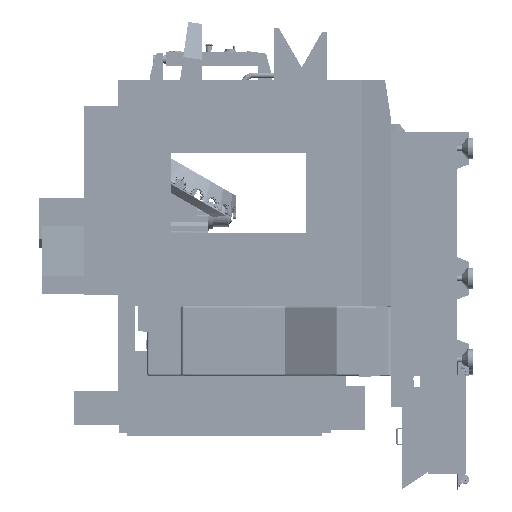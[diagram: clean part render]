
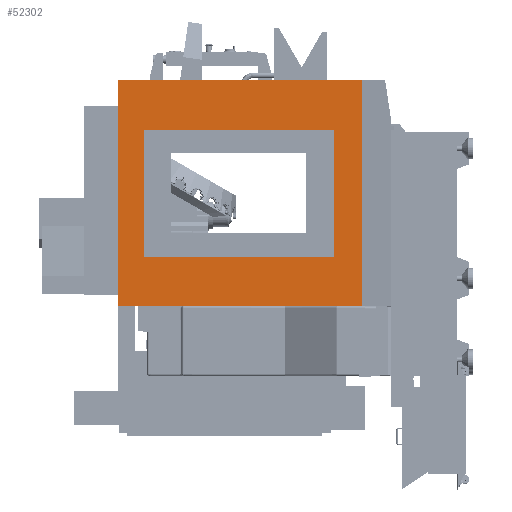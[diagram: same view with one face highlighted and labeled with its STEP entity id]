
A CAD part, left-side view. The second image highlights one B-rep face of the part: STEP entity #52302.
In plain terms, the highlighted planar face has unit normal (-1, 0, 0).
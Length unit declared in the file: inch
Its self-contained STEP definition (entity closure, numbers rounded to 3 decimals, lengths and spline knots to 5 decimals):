
#3774 = LINE ( 'NONE', #417294, #59564 ) ;
#4058 = CARTESIAN_POINT ( 'NONE',  ( -32.48031, 21.06299, 55.70472 ) ) ;
#6069 = LINE ( 'NONE', #510314, #513732 ) ;
#7637 = VERTEX_POINT ( 'NONE', #316207 ) ;
#22071 = CARTESIAN_POINT ( 'NONE',  ( -32.48031, 63.97638, 26.96457 ) ) ;
#23728 = FACE_BOUND ( 'NONE', #217670, .T. ) ;
#39242 = VECTOR ( 'NONE', #265768, 39.37008 ) ;
#52302 = ADVANCED_FACE ( 'NONE', ( #142437, #23728 ), #191964, .T. ) ;
#58057 = DIRECTION ( 'NONE',  ( 0., -1., 0. ) ) ;
#59564 = VECTOR ( 'NONE', #166531, 39.37008 ) ;
#66441 = DIRECTION ( 'NONE',  ( 0., 0., -1. ) ) ;
#82492 = DIRECTION ( 'NONE',  ( 0., 1., 0. ) ) ;
#91105 = VECTOR ( 'NONE', #442512, 39.37008 ) ;
#94455 = VECTOR ( 'NONE', #82492, 39.37008 ) ;
#121980 = EDGE_CURVE ( 'NONE', #544416, #7637, #437110, .T. ) ;
#133866 = EDGE_CURVE ( 'NONE', #297587, #310428, #146245, .T. ) ;
#142437 = FACE_OUTER_BOUND ( 'NONE', #416256, .T. ) ;
#144342 = CARTESIAN_POINT ( 'NONE',  ( -32.48031, 21.06299, 26.96457 ) ) ;
#144703 = VERTEX_POINT ( 'NONE', #234651 ) ;
#146245 = LINE ( 'NONE', #22071, #164222 ) ;
#148738 = ORIENTED_EDGE ( 'NONE', *, *, #121980, .F. ) ;
#160101 = CARTESIAN_POINT ( 'NONE',  ( -32.48031, 14.76378, 16.76803 ) ) ;
#164080 = ORIENTED_EDGE ( 'NONE', *, *, #327753, .F. ) ;
#164222 = VECTOR ( 'NONE', #58057, 39.37008 ) ;
#166531 = DIRECTION ( 'NONE',  ( 0., 0., -1. ) ) ;
#168398 = CARTESIAN_POINT ( 'NONE',  ( -32.48031, 63.97638, 55.70472 ) ) ;
#191964 = PLANE ( 'NONE',  #424643 ) ;
#191986 = EDGE_CURVE ( 'NONE', #314636, #7637, #3774, .T. ) ;
#198176 = CARTESIAN_POINT ( 'NONE',  ( -32.48031, 69.88189, 66.92126 ) ) ;
#209747 = LINE ( 'NONE', #168398, #449542 ) ;
#217670 = EDGE_LOOP ( 'NONE', ( #485137, #335045, #403370, #304699 ) ) ;
#224708 = EDGE_CURVE ( 'NONE', #445114, #314636, #6069, .T. ) ;
#234651 = CARTESIAN_POINT ( 'NONE',  ( -32.48031, 63.97638, 55.70472 ) ) ;
#246677 = EDGE_CURVE ( 'NONE', #449594, #144703, #327959, .T. ) ;
#261320 = CARTESIAN_POINT ( 'NONE',  ( -32.48031, 14.76378, 66.92126 ) ) ;
#265768 = DIRECTION ( 'NONE',  ( 0., 0., 1. ) ) ;
#266273 = CARTESIAN_POINT ( 'NONE',  ( -32.48031, 14.76378, 15.74803 ) ) ;
#272016 = CARTESIAN_POINT ( 'NONE',  ( -32.48031, 69.88189, 16.76803 ) ) ;
#274570 = CARTESIAN_POINT ( 'NONE',  ( -32.48031, 69.88189, 15.74803 ) ) ;
#297587 = VERTEX_POINT ( 'NONE', #345004 ) ;
#304699 = ORIENTED_EDGE ( 'NONE', *, *, #529732, .F. ) ;
#310428 = VERTEX_POINT ( 'NONE', #317612 ) ;
#314636 = VERTEX_POINT ( 'NONE', #198176 ) ;
#316207 = CARTESIAN_POINT ( 'NONE',  ( -32.48031, 69.88189, 15.74803 ) ) ;
#317612 = CARTESIAN_POINT ( 'NONE',  ( -32.48031, 21.06299, 26.96457 ) ) ;
#318729 = DIRECTION ( 'NONE',  ( -1., 0., 0. ) ) ;
#327753 = EDGE_CURVE ( 'NONE', #445114, #544416, #413568, .T. ) ;
#327959 = LINE ( 'NONE', #462822, #94455 ) ;
#335045 = ORIENTED_EDGE ( 'NONE', *, *, #439488, .F. ) ;
#345004 = CARTESIAN_POINT ( 'NONE',  ( -32.48031, 63.97638, 26.96457 ) ) ;
#351108 = LINE ( 'NONE', #144342, #39242 ) ;
#385938 = DIRECTION ( 'NONE',  ( 0., 0., -1. ) ) ;
#391466 = VECTOR ( 'NONE', #66441, 39.37008 ) ;
#398527 = ORIENTED_EDGE ( 'NONE', *, *, #191986, .T. ) ;
#403370 = ORIENTED_EDGE ( 'NONE', *, *, #133866, .F. ) ;
#413568 = LINE ( 'NONE', #160101, #391466 ) ;
#416256 = EDGE_LOOP ( 'NONE', ( #398527, #148738, #164080, #532986 ) ) ;
#417294 = CARTESIAN_POINT ( 'NONE',  ( -32.48031, 69.88189, 16.76803 ) ) ;
#424643 = AXIS2_PLACEMENT_3D ( 'NONE', #272016, #318729, #486718 ) ;
#437110 = LINE ( 'NONE', #274570, #91105 ) ;
#439488 = EDGE_CURVE ( 'NONE', #310428, #449594, #351108, .T. ) ;
#442512 = DIRECTION ( 'NONE',  ( 0., 1., 0. ) ) ;
#445114 = VERTEX_POINT ( 'NONE', #261320 ) ;
#449542 = VECTOR ( 'NONE', #385938, 39.37008 ) ;
#449594 = VERTEX_POINT ( 'NONE', #4058 ) ;
#462822 = CARTESIAN_POINT ( 'NONE',  ( -32.48031, 21.06299, 55.70472 ) ) ;
#485137 = ORIENTED_EDGE ( 'NONE', *, *, #246677, .F. ) ;
#486718 = DIRECTION ( 'NONE',  ( 0., -1., 0. ) ) ;
#504929 = DIRECTION ( 'NONE',  ( 0., 1., 0. ) ) ;
#510314 = CARTESIAN_POINT ( 'NONE',  ( -32.48031, 69.88189, 66.92126 ) ) ;
#513732 = VECTOR ( 'NONE', #504929, 39.37008 ) ;
#529732 = EDGE_CURVE ( 'NONE', #144703, #297587, #209747, .T. ) ;
#532986 = ORIENTED_EDGE ( 'NONE', *, *, #224708, .T. ) ;
#544416 = VERTEX_POINT ( 'NONE', #266273 ) ;
